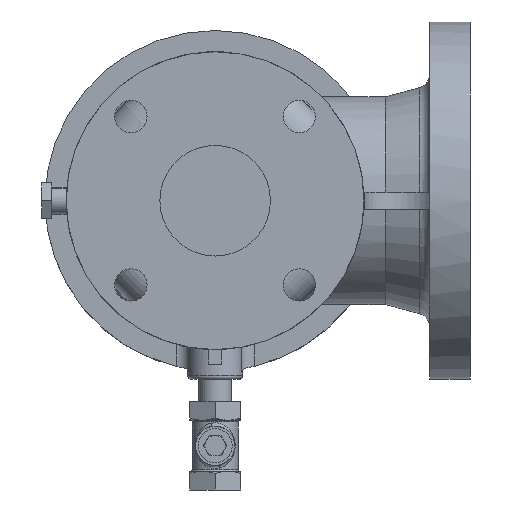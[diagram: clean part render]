
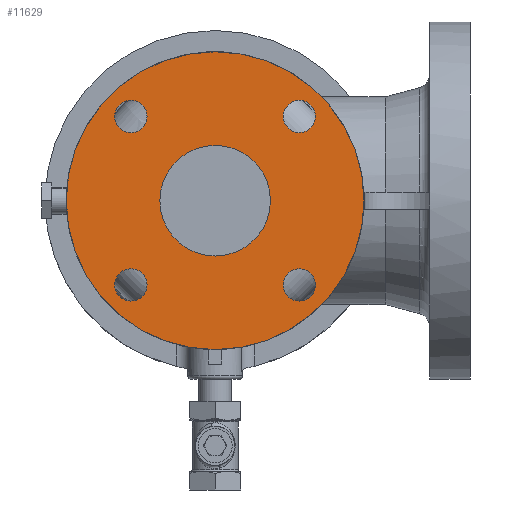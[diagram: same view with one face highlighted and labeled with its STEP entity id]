
A CAD part, front view. The second image highlights one B-rep face of the part: STEP entity #11629.
In plain terms, the highlighted planar face has unit normal (0, -1, 0).
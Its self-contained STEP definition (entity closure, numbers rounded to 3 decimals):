
#79 = AXIS2_PLACEMENT_3D ( 'NONE', #2349, #13473, #15000 ) ;
#315 = CARTESIAN_POINT ( 'NONE',  ( 32.5, -150., 0. ) ) ;
#419 = CIRCLE ( 'NONE', #9491, 9.5 ) ;
#602 = CARTESIAN_POINT ( 'NONE',  ( 49.497, -150., 49.497 ) ) ;
#664 = FACE_OUTER_BOUND ( 'NONE', #15368, .T. ) ;
#773 = AXIS2_PLACEMENT_3D ( 'NONE', #11717, #15443, #4404 ) ;
#863 = CARTESIAN_POINT ( 'NONE',  ( 58.997, -150., 49.497 ) ) ;
#1068 = DIRECTION ( 'NONE',  ( 0., -1., 0. ) ) ;
#1260 = VERTEX_POINT ( 'NONE', #13263 ) ;
#1496 = ORIENTED_EDGE ( 'NONE', *, *, #6736, .F. ) ;
#2029 = AXIS2_PLACEMENT_3D ( 'NONE', #2066, #3353, #13266 ) ;
#2066 = CARTESIAN_POINT ( 'NONE',  ( 49.497, -150., -49.497 ) ) ;
#2349 = CARTESIAN_POINT ( 'NONE',  ( -49.497, -150., -49.497 ) ) ;
#2797 = DIRECTION ( 'NONE',  ( 1., 0., 0. ) ) ;
#2869 = CIRCLE ( 'NONE', #7532, 9.5 ) ;
#2913 = ORIENTED_EDGE ( 'NONE', *, *, #7107, .F. ) ;
#3004 = CARTESIAN_POINT ( 'NONE',  ( -87.5, -150., 0. ) ) ;
#3353 = DIRECTION ( 'NONE',  ( 0., -1., 0. ) ) ;
#3394 = CARTESIAN_POINT ( 'NONE',  ( 39.997, -150., 49.497 ) ) ;
#4021 = DIRECTION ( 'NONE',  ( 0., -1., 0. ) ) ;
#4140 = EDGE_CURVE ( 'NONE', #8236, #9497, #419, .T. ) ;
#4169 = VERTEX_POINT ( 'NONE', #5803 ) ;
#4226 = FACE_BOUND ( 'NONE', #10581, .T. ) ;
#4236 = ORIENTED_EDGE ( 'NONE', *, *, #11151, .F. ) ;
#4404 = DIRECTION ( 'NONE',  ( -1., 0., 0. ) ) ;
#4463 = PLANE ( 'NONE',  #10848 ) ;
#4751 = CIRCLE ( 'NONE', #79, 9.5 ) ;
#4887 = CIRCLE ( 'NONE', #12403, 87.5 ) ;
#4908 = AXIS2_PLACEMENT_3D ( 'NONE', #13956, #13713, #12664 ) ;
#4919 = CARTESIAN_POINT ( 'NONE',  ( -58.997, -150., 49.497 ) ) ;
#5329 = EDGE_CURVE ( 'NONE', #9497, #8236, #13696, .T. ) ;
#5437 = FACE_BOUND ( 'NONE', #7919, .T. ) ;
#5616 = DIRECTION ( 'NONE',  ( 0., 0., -1. ) ) ;
#5803 = CARTESIAN_POINT ( 'NONE',  ( -39.997, -150., 49.497 ) ) ;
#6183 = CIRCLE ( 'NONE', #16055, 9.5 ) ;
#6351 = ORIENTED_EDGE ( 'NONE', *, *, #9224, .F. ) ;
#6588 = EDGE_CURVE ( 'NONE', #9130, #10157, #7487, .T. ) ;
#6715 = AXIS2_PLACEMENT_3D ( 'NONE', #12182, #1068, #15986 ) ;
#6736 = EDGE_CURVE ( 'NONE', #9375, #7035, #12949, .T. ) ;
#6822 = FACE_BOUND ( 'NONE', #13915, .T. ) ;
#7008 = VERTEX_POINT ( 'NONE', #3394 ) ;
#7035 = VERTEX_POINT ( 'NONE', #14673 ) ;
#7107 = EDGE_CURVE ( 'NONE', #4169, #10685, #6183, .T. ) ;
#7236 = CIRCLE ( 'NONE', #7484, 32.5 ) ;
#7484 = AXIS2_PLACEMENT_3D ( 'NONE', #7572, #14955, #10013 ) ;
#7487 = CIRCLE ( 'NONE', #6715, 9.5 ) ;
#7532 = AXIS2_PLACEMENT_3D ( 'NONE', #12471, #4021, #2797 ) ;
#7572 = CARTESIAN_POINT ( 'NONE',  ( 0., -150., 0. ) ) ;
#7919 = EDGE_LOOP ( 'NONE', ( #15909, #6351 ) ) ;
#7953 = DIRECTION ( 'NONE',  ( 1., 0., 0. ) ) ;
#8055 = DIRECTION ( 'NONE',  ( 0., -1., 0. ) ) ;
#8236 = VERTEX_POINT ( 'NONE', #14059 ) ;
#8504 = CARTESIAN_POINT ( 'NONE',  ( 49.497, -150., 49.497 ) ) ;
#8585 = DIRECTION ( 'NONE',  ( 0., 0., -1. ) ) ;
#9130 = VERTEX_POINT ( 'NONE', #15581 ) ;
#9192 = ORIENTED_EDGE ( 'NONE', *, *, #4140, .F. ) ;
#9219 = DIRECTION ( 'NONE',  ( -1., 0., 0. ) ) ;
#9224 = EDGE_CURVE ( 'NONE', #7008, #10831, #10946, .T. ) ;
#9375 = VERTEX_POINT ( 'NONE', #315 ) ;
#9416 = DIRECTION ( 'NONE',  ( 0., -1., 0. ) ) ;
#9460 = DIRECTION ( 'NONE',  ( 0., -1., 0. ) ) ;
#9491 = AXIS2_PLACEMENT_3D ( 'NONE', #11413, #9460, #9219 ) ;
#9497 = VERTEX_POINT ( 'NONE', #11993 ) ;
#9646 = CARTESIAN_POINT ( 'NONE',  ( -49.497, -150., 49.497 ) ) ;
#9710 = EDGE_CURVE ( 'NONE', #10685, #4169, #2869, .T. ) ;
#9767 = ORIENTED_EDGE ( 'NONE', *, *, #6588, .F. ) ;
#9823 = CIRCLE ( 'NONE', #11647, 9.5 ) ;
#10013 = DIRECTION ( 'NONE',  ( 1., 0., 0. ) ) ;
#10157 = VERTEX_POINT ( 'NONE', #13549 ) ;
#10459 = EDGE_CURVE ( 'NONE', #11088, #1260, #4887, .T. ) ;
#10541 = CARTESIAN_POINT ( 'NONE',  ( 0., -150., 0. ) ) ;
#10581 = EDGE_LOOP ( 'NONE', ( #1496, #12475 ) ) ;
#10685 = VERTEX_POINT ( 'NONE', #4919 ) ;
#10831 = VERTEX_POINT ( 'NONE', #863 ) ;
#10848 = AXIS2_PLACEMENT_3D ( 'NONE', #3004, #9416, #7953 ) ;
#10871 = DIRECTION ( 'NONE',  ( 1., 0., 0. ) ) ;
#10946 = CIRCLE ( 'NONE', #13253, 9.5 ) ;
#10992 = EDGE_CURVE ( 'NONE', #7035, #9375, #7236, .T. ) ;
#11088 = VERTEX_POINT ( 'NONE', #15526 ) ;
#11151 = EDGE_CURVE ( 'NONE', #1260, #11088, #12688, .T. ) ;
#11156 = EDGE_CURVE ( 'NONE', #10831, #7008, #9823, .T. ) ;
#11413 = CARTESIAN_POINT ( 'NONE',  ( 49.497, -150., -49.497 ) ) ;
#11629 = ADVANCED_FACE ( 'NONE', ( #5437, #13075, #14203, #6822, #4226, #664 ), #4463, .T. ) ;
#11647 = AXIS2_PLACEMENT_3D ( 'NONE', #602, #8055, #5616 ) ;
#11717 = CARTESIAN_POINT ( 'NONE',  ( 0., -150., 0. ) ) ;
#11757 = DIRECTION ( 'NONE',  ( 0., 1., 0. ) ) ;
#11993 = CARTESIAN_POINT ( 'NONE',  ( 58.997, -150., -49.497 ) ) ;
#12182 = CARTESIAN_POINT ( 'NONE',  ( -49.497, -150., -49.497 ) ) ;
#12386 = EDGE_CURVE ( 'NONE', #10157, #9130, #4751, .T. ) ;
#12403 = AXIS2_PLACEMENT_3D ( 'NONE', #10541, #11757, #14585 ) ;
#12471 = CARTESIAN_POINT ( 'NONE',  ( -49.497, -150., 49.497 ) ) ;
#12475 = ORIENTED_EDGE ( 'NONE', *, *, #10992, .F. ) ;
#12664 = DIRECTION ( 'NONE',  ( 1., 0., 0. ) ) ;
#12688 = CIRCLE ( 'NONE', #773, 87.5 ) ;
#12949 = CIRCLE ( 'NONE', #4908, 32.5 ) ;
#13075 = FACE_BOUND ( 'NONE', #14477, .T. ) ;
#13253 = AXIS2_PLACEMENT_3D ( 'NONE', #8504, #14598, #8585 ) ;
#13263 = CARTESIAN_POINT ( 'NONE',  ( -87.5, -150., 0. ) ) ;
#13266 = DIRECTION ( 'NONE',  ( -1., 0., 0. ) ) ;
#13473 = DIRECTION ( 'NONE',  ( 0., -1., 0. ) ) ;
#13549 = CARTESIAN_POINT ( 'NONE',  ( -39.997, -150., -49.497 ) ) ;
#13696 = CIRCLE ( 'NONE', #2029, 9.5 ) ;
#13713 = DIRECTION ( 'NONE',  ( 0., -1., 0. ) ) ;
#13915 = EDGE_LOOP ( 'NONE', ( #2913, #15099 ) ) ;
#13956 = CARTESIAN_POINT ( 'NONE',  ( 0., -150., 0. ) ) ;
#14059 = CARTESIAN_POINT ( 'NONE',  ( 39.997, -150., -49.497 ) ) ;
#14203 = FACE_BOUND ( 'NONE', #15212, .T. ) ;
#14477 = EDGE_LOOP ( 'NONE', ( #15314, #9192 ) ) ;
#14585 = DIRECTION ( 'NONE',  ( -1., 0., 0. ) ) ;
#14598 = DIRECTION ( 'NONE',  ( 0., -1., 0. ) ) ;
#14673 = CARTESIAN_POINT ( 'NONE',  ( -32.5, -150., 0. ) ) ;
#14955 = DIRECTION ( 'NONE',  ( 0., -1., 0. ) ) ;
#15000 = DIRECTION ( 'NONE',  ( 0., 0., 1. ) ) ;
#15069 = ORIENTED_EDGE ( 'NONE', *, *, #10459, .F. ) ;
#15079 = ORIENTED_EDGE ( 'NONE', *, *, #12386, .F. ) ;
#15099 = ORIENTED_EDGE ( 'NONE', *, *, #9710, .F. ) ;
#15212 = EDGE_LOOP ( 'NONE', ( #15079, #9767 ) ) ;
#15314 = ORIENTED_EDGE ( 'NONE', *, *, #5329, .F. ) ;
#15368 = EDGE_LOOP ( 'NONE', ( #4236, #15069 ) ) ;
#15443 = DIRECTION ( 'NONE',  ( 0., 1., 0. ) ) ;
#15526 = CARTESIAN_POINT ( 'NONE',  ( 87.5, -150., 0. ) ) ;
#15581 = CARTESIAN_POINT ( 'NONE',  ( -58.997, -150., -49.497 ) ) ;
#15744 = DIRECTION ( 'NONE',  ( 0., -1., 0. ) ) ;
#15909 = ORIENTED_EDGE ( 'NONE', *, *, #11156, .F. ) ;
#15986 = DIRECTION ( 'NONE',  ( 0., 0., 1. ) ) ;
#16055 = AXIS2_PLACEMENT_3D ( 'NONE', #9646, #15744, #10871 ) ;
